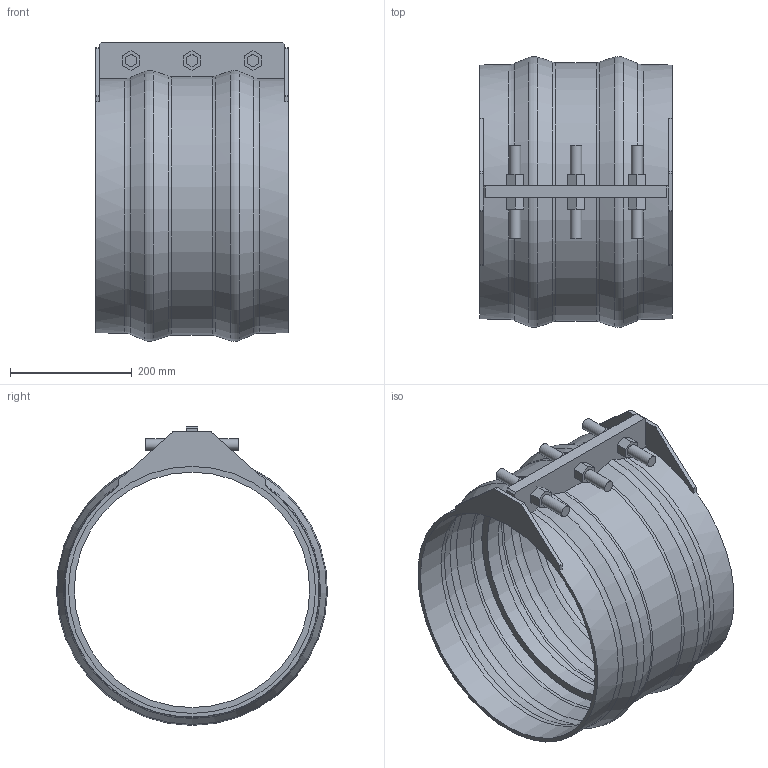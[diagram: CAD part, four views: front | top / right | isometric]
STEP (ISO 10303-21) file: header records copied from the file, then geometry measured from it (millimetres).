
FILE_DESCRIPTION(/* description */ ('VIC RESTRAINED COUPLING STYLE 233 (FLEX) (BRD)','CAx-IF Rec.Pracs.---Representation and Presentation of Product Manufacturing Information (PMI)---4.0---2014-10-13'),/* implementation_level */ '2;1');
FILE_NAME(/* name */ 'C:\Users\Vjadhav\Desktop\CAD for Inventor\Test for STEP\Vivek\Adsk_Inventor_Bolted Sleeve_iParts\STEP\Victaulic_VBSP_Coupling Flexible Restrained_Style 233 (BRD)\Victaulic_VBSP_Coupling Flexible Restrained_Style 233 (BRD)_300psi_16 (400).stp',/* time_stamp */ '2020-09-24T12:29:01+06:00',/* author */ ('Vjadhav'),/* organization */ ('Victaulic'),/* preprocessor_version */ 'ST-DEVELOPER v17.2',/* originating_system */ 'Autodesk Inventor 2019',/* authorisation */ '');
FILE_SCHEMA (('AP242_MANAGED_MODEL_BASED_3D_ENGINEERING_MIM_LF { 1 0 10303 442 1 1 4 }'));
Length unit declared in the file: inch
Products named in the file (1): Style_233_Type_2_300psi-16.0
Bounding box: 317.5 x 445.69 x 491.5 mm (x, y, z)
Volume: 3710445.4 mm3; surface area: 1001036.5 mm2
Topology: 1 solids, 1 shells, 115 faces, 309 edges, 210 vertices
Faces by surface type: plane 73, cylinder 22, torus 12, cone 8
Full cylindrical faces by diameter (mm): 19.05 x6, 387.35 x1, 406.4 x2, 412.75 x2
Entity records: 3970 total; most frequent: CARTESIAN_POINT 764, DIRECTION 645, ORIENTED_EDGE 618, EDGE_CURVE 309, AXIS2_PLACEMENT_3D 227, VERTEX_POINT 210, LINE 191, VECTOR 191
